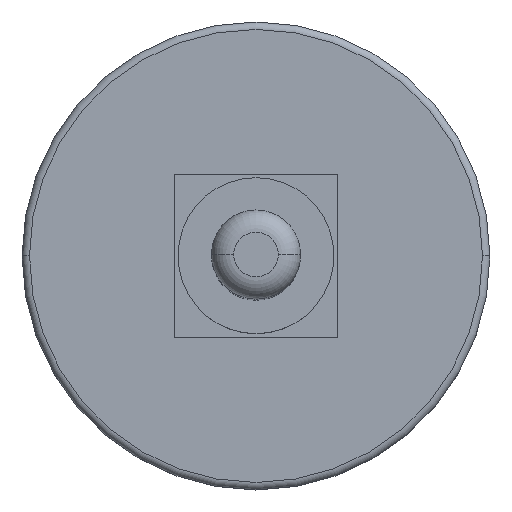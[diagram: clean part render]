
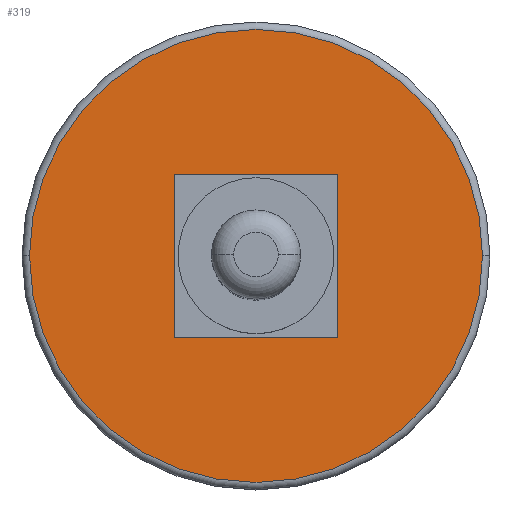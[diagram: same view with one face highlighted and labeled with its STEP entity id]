
A CAD part, top view. The second image highlights one B-rep face of the part: STEP entity #319.
In plain terms, the highlighted planar face has unit normal (0, 0, 1).
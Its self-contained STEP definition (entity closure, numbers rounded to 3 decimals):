
#2 = FACE_BOUND ( 'NONE', #114, .T. ) ;
#5 = DIRECTION ( 'NONE',  ( 0., -1., 0. ) ) ;
#10 = CARTESIAN_POINT ( 'NONE',  ( 11., 11., 10. ) ) ;
#15 = DIRECTION ( 'NONE',  ( 1., 0., 0. ) ) ;
#20 = VERTEX_POINT ( 'NONE', #324 ) ;
#36 = CIRCLE ( 'NONE', #193, 30.5 ) ;
#43 = EDGE_CURVE ( 'NONE', #166, #317, #188, .T. ) ;
#49 = CARTESIAN_POINT ( 'NONE',  ( -11., 11., 10. ) ) ;
#64 = FACE_OUTER_BOUND ( 'NONE', #578, .T. ) ;
#93 = LINE ( 'NONE', #49, #490 ) ;
#95 = CARTESIAN_POINT ( 'NONE',  ( 0., 0., 10. ) ) ;
#107 = ORIENTED_EDGE ( 'NONE', *, *, #234, .T. ) ;
#114 = EDGE_LOOP ( 'NONE', ( #304, #117, #297, #546 ) ) ;
#116 = EDGE_CURVE ( 'NONE', #321, #343, #233, .T. ) ;
#117 = ORIENTED_EDGE ( 'NONE', *, *, #595, .F. ) ;
#145 = DIRECTION ( 'NONE',  ( 1., 0., 0. ) ) ;
#149 = VECTOR ( 'NONE', #15, 1000. ) ;
#161 = VECTOR ( 'NONE', #289, 1000. ) ;
#166 = VERTEX_POINT ( 'NONE', #241 ) ;
#178 = DIRECTION ( 'NONE',  ( 1., 0., 0. ) ) ;
#184 = EDGE_CURVE ( 'NONE', #343, #487, #93, .T. ) ;
#188 = CIRCLE ( 'NONE', #272, 30.5 ) ;
#193 = AXIS2_PLACEMENT_3D ( 'NONE', #95, #284, #178 ) ;
#233 = LINE ( 'NONE', #594, #310 ) ;
#234 = EDGE_CURVE ( 'NONE', #317, #166, #36, .T. ) ;
#241 = CARTESIAN_POINT ( 'NONE',  ( -30.5, 0., 10. ) ) ;
#248 = PLANE ( 'NONE',  #318 ) ;
#253 = CARTESIAN_POINT ( 'NONE',  ( -11., -11., 10. ) ) ;
#272 = AXIS2_PLACEMENT_3D ( 'NONE', #513, #330, #145 ) ;
#284 = DIRECTION ( 'NONE',  ( 0., 0., 1. ) ) ;
#285 = CARTESIAN_POINT ( 'NONE',  ( 30.5, 0., 10. ) ) ;
#289 = DIRECTION ( 'NONE',  ( 0., 1., 0. ) ) ;
#297 = ORIENTED_EDGE ( 'NONE', *, *, #184, .F. ) ;
#304 = ORIENTED_EDGE ( 'NONE', *, *, #346, .F. ) ;
#310 = VECTOR ( 'NONE', #553, 1000. ) ;
#317 = VERTEX_POINT ( 'NONE', #285 ) ;
#318 = AXIS2_PLACEMENT_3D ( 'NONE', #379, #472, #375 ) ;
#319 = ADVANCED_FACE ( 'NONE', ( #64, #2 ), #248, .T. ) ;
#321 = VERTEX_POINT ( 'NONE', #10 ) ;
#324 = CARTESIAN_POINT ( 'NONE',  ( 11., -11., 10. ) ) ;
#330 = DIRECTION ( 'NONE',  ( 0., 0., 1. ) ) ;
#343 = VERTEX_POINT ( 'NONE', #421 ) ;
#346 = EDGE_CURVE ( 'NONE', #20, #321, #557, .T. ) ;
#375 = DIRECTION ( 'NONE',  ( 1., 0., 0. ) ) ;
#379 = CARTESIAN_POINT ( 'NONE',  ( 0., 0., 10. ) ) ;
#396 = ORIENTED_EDGE ( 'NONE', *, *, #43, .T. ) ;
#402 = CARTESIAN_POINT ( 'NONE',  ( -11., -11., 10. ) ) ;
#421 = CARTESIAN_POINT ( 'NONE',  ( -11., 11., 10. ) ) ;
#469 = CARTESIAN_POINT ( 'NONE',  ( 11., 11., 10. ) ) ;
#472 = DIRECTION ( 'NONE',  ( 0., 0., 1. ) ) ;
#482 = LINE ( 'NONE', #253, #149 ) ;
#487 = VERTEX_POINT ( 'NONE', #402 ) ;
#490 = VECTOR ( 'NONE', #5, 1000. ) ;
#513 = CARTESIAN_POINT ( 'NONE',  ( 0., 0., 10. ) ) ;
#546 = ORIENTED_EDGE ( 'NONE', *, *, #116, .F. ) ;
#553 = DIRECTION ( 'NONE',  ( -1., 0., 0. ) ) ;
#557 = LINE ( 'NONE', #469, #161 ) ;
#578 = EDGE_LOOP ( 'NONE', ( #107, #396 ) ) ;
#594 = CARTESIAN_POINT ( 'NONE',  ( -11., 11., 10. ) ) ;
#595 = EDGE_CURVE ( 'NONE', #487, #20, #482, .T. ) ;
